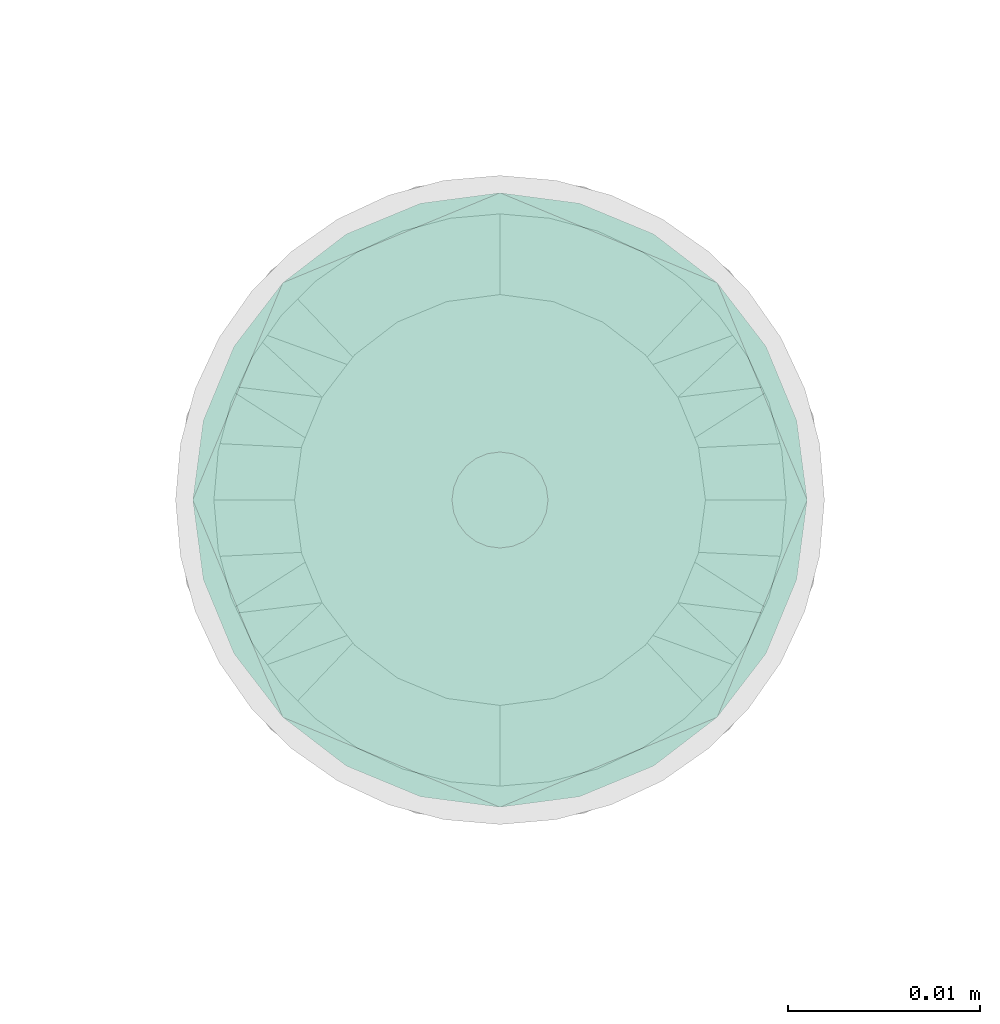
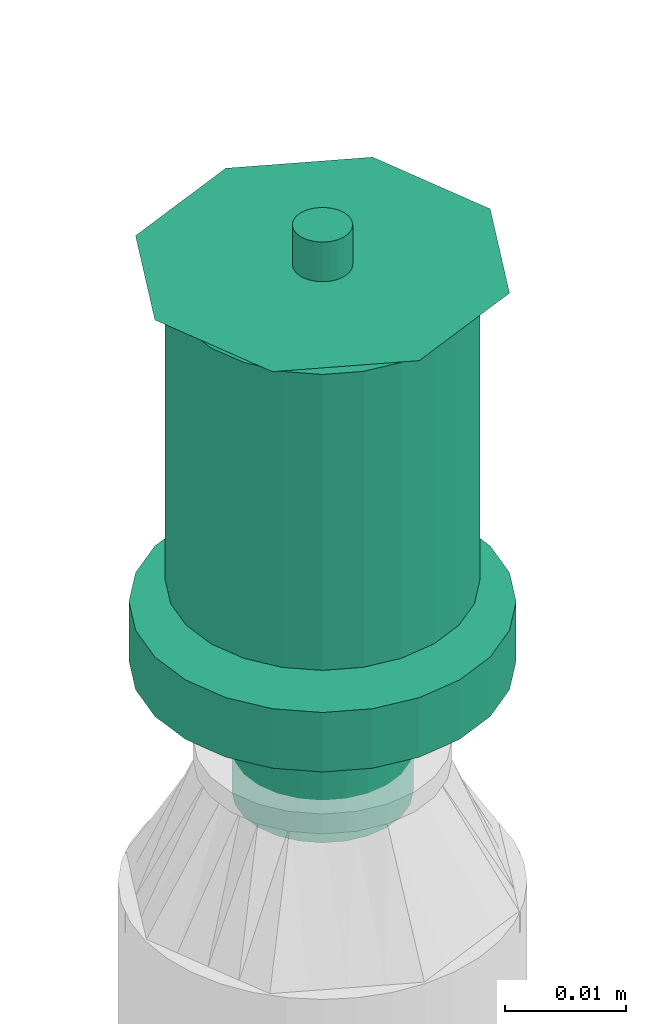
# One storey, part 56 of 63: 1 flow terminal.
"""IFC2X3 building model written with IfcOpenShell, lengths in millimetres."""

from ifc_helpers import new_model, entity, si_unit, converted_unit, derived_unit, direction, frame, origin_with_axes, place, context, subcontext, project, spatial, open_shell, surface_model, source, transform, mapped, type_object, element, save


model = new_model("IFC2X3")

# Units and contexts
model_context = context("Model", 3, precision=0.01, world=frame((0.0, 4.29681676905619e-09, 0.0)), true_north=direction((4.01073788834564e-13, 1.0)))
plan_context = context("Plan", 3, precision=0.01, world=frame((0.0, 4.29681676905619e-09, 0.0)), true_north=direction((4.01073788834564e-13, 1.0)))
body_context = subcontext(model_context, "Body", "Model", "MODEL_VIEW")
ifc_project = project(units=[converted_unit("PLANEANGLEUNIT", "DEGREE", entity("IfcPositiveLengthMeasure", 0.0174532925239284), si_unit("PLANEANGLEUNIT", "RADIAN"), dimensions=[0, 0, 0, 0, 0, 0, 0]), si_unit("AREAUNIT", "SQUARE_METRE"), si_unit("LENGTHUNIT", "METRE", prefix="MILLI"), si_unit("MASSUNIT", "GRAM", prefix="KILO"), si_unit("POWERUNIT", "WATT"), si_unit("PRESSUREUNIT", "PASCAL", prefix="KILO"), si_unit("FORCEUNIT", "NEWTON", prefix="KILO"), si_unit("ELECTRICVOLTAGEUNIT", "VOLT"), si_unit("ELECTRICCURRENTUNIT", "AMPERE"), si_unit("THERMODYNAMICTEMPERATUREUNIT", "DEGREE_CELSIUS"), si_unit("TIMEUNIT", "SECOND"), si_unit("VOLUMEUNIT", "CUBIC_METRE"), derived_unit("LINEARVELOCITYUNIT", [(si_unit("LENGTHUNIT", "METRE"), 1), (si_unit("TIMEUNIT", "SECOND"), -1)]), derived_unit("VOLUMETRICFLOWRATEUNIT", [(si_unit("VOLUMEUNIT", "CUBIC_METRE"), 1), (si_unit("TIMEUNIT", "SECOND"), -1)]), derived_unit("THERMALTRANSMITTANCEUNIT", [(si_unit("POWERUNIT", "WATT"), 1), (si_unit("THERMODYNAMICTEMPERATUREUNIT", "KELVIN"), -1), (si_unit("AREAUNIT", "SQUARE_METRE"), -1)]), derived_unit("SOUNDPRESSUREUNIT", [(si_unit("PRESSUREUNIT", "PASCAL"), 1)])], contexts=[model_context, plan_context])

# Site, building, storey
site_placement = place(None, frame((0.0, -4.29681676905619e-09, 0.0), z_axis=(0.0, 0.0, 1.0), x_axis=(1.0, 0.0, 0.0)))
site = spatial("IfcSite", under=ifc_project, at=site_placement, CompositionType="ELEMENT")
building_placement = place(site_placement, frame((0.0, 4.29681676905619e-09, 0.0), z_axis=(0.0, 0.0, 1.0), x_axis=(1.0, 0.0, 0.0)))
building = spatial("IfcBuilding", under=site, at=building_placement, Name="mc-building", CompositionType="ELEMENT")
storey_placement = place(building_placement, frame((0.0, 0.0, 207370.0), z_axis=(0.0, 0.0, 1.0), x_axis=(1.0, 0.0, 0.0)))
storey = spatial("IfcBuildingStorey", under=building, at=storey_placement, Name="Nivå E", CompositionType="ELEMENT", Elevation=207370.0)

# Flow terminal
fire_suppression_terminal_type = type_object("IfcFireSuppressionTerminalType", Name="68DGR-STD-STÅENDE", PredefinedType="NOTDEFINED")
shared_shape = source(origin_with_axes(), body_context, "Body", "SurfaceModel", [
    surface_model("IfcShellBasedSurfaceModel", [(3.36465, -12.55704, 51.0), (6.5, -11.25833, 51.0), (9.19239, -9.19239, 51.0), (12.55704, -3.36465, 51.0), (-11.25833, -6.5, 51.0), (11.25833, -6.5, 51.0), (-13.0, 0.0, 51.0), (0.0, -13.0, 51.0), (-6.5, -11.25833, 51.0), (-3.36465, -12.55704, 51.0), (-9.19239, -9.19239, 51.0), (-12.55704, -3.36465, 51.0), (13.0, 0.0, 51.0), (12.55704, 3.36465, 51.0), (11.25833, 6.5, 51.0), (9.19239, 9.19239, 51.0), (6.5, 11.25833, 51.0), (3.36465, 12.55704, 51.0), (0.0, 13.0, 51.0), (-3.36465, 12.55704, 51.0), (-12.55704, 3.36465, 51.0), (-9.19239, 9.19239, 51.0), (-11.25833, 6.5, 51.0), (-6.5, 11.25833, 51.0), (0.0, 13.0, 21.14766), (3.36465, 12.55704, 21.14766), (6.5, 11.25833, 21.14766), (-3.36465, 12.55704, 21.14766), (9.19239, 9.19239, 21.14766), (11.25833, 6.5, 21.14766), (12.55704, 3.36465, 21.14766), (-12.55704, 3.36465, 21.14766), (-11.25833, -6.5, 21.14766), (-9.19239, 9.19239, 21.14766), (-6.5, 11.25833, 21.14766), (-11.25833, 6.5, 21.14766), (-13.0, 0.0, 21.14766), (12.55704, -3.36465, 21.14766), (9.19239, -9.19239, 21.14766), (11.25833, -6.5, 21.14766), (6.5, -11.25833, 21.14766), (3.36465, -12.55704, 21.14766), (-6.5, -11.25833, 21.14766), (-9.19239, -9.19239, 21.14766), (-12.55704, -3.36465, 21.14766), (0.0, -13.0, 21.14766), (-3.36465, -12.55704, 21.14766), (13.0, 0.0, 21.14766), (7.24444, -1.94114, 0.1), (1.94114, -7.24444, 0.1), (3.75, -6.49519, 0.1), (5.3033, -5.3033, 0.1), (-5.3033, -5.3033, 0.1), (6.49519, -3.75, 0.1), (5.3033, 5.3033, 0.1), (0.0, -7.5, 0.1), (-3.75, -6.49519, 0.1), (-1.94114, -7.24444, 0.1), (-7.24444, -1.94114, 0.1), (-6.49519, -3.75, 0.1), (-7.24444, 1.94114, 0.1), (7.5, 0.0, 0.1), (6.49519, 3.75, 0.1), (-6.49519, 3.75, 0.1), (1.94114, 7.24444, 0.1), (0.0, 7.5, 0.1), (3.75, 6.49519, 0.1), (-7.5, 0.0, 0.1), (-5.3033, 5.3033, 0.1), (-1.94114, 7.24444, 0.1), (-3.75, 6.49519, 0.1), (7.24444, 1.94114, 0.1), (1.94114, 7.24444, -0.1), (-6.49519, 3.75, -0.1), (0.0, 7.5, -0.1), (5.3033, 5.3033, -0.1), (3.75, 6.49519, -0.1), (6.49519, 3.75, -0.1), (7.24444, 1.94114, -0.1), (-1.94114, 7.24444, -0.1), (-5.3033, 5.3033, -0.1), (-3.75, 6.49519, -0.1), (-7.24444, 1.94114, -0.1), (-7.24444, -1.94114, -0.1), (-7.5, 0.0, -0.1), (7.5, 0.0, -0.1), (7.24444, -1.94114, -0.1), (-5.3033, -5.3033, -0.1), (1.94114, -7.24444, -0.1), (6.49519, -3.75, -0.1), (5.3033, -5.3033, -0.1), (3.75, -6.49519, -0.1), (-6.49519, -3.75, -0.1), (-3.75, -6.49519, -0.1), (0.0, -7.5, -0.1), (-1.94114, -7.24444, -0.1), (0.0, -2.5, 51.0), (-2.5, 0.0, 51.0), (0.0, 2.5, 51.0), (2.5, 0.0, 51.0), (0.0, -16.0, 53.0), (11.31371, -11.31371, 53.0), (-11.31371, -11.31371, 53.0), (-16.0, 0.0, 53.0), (16.0, 0.0, 53.0), (11.31371, 11.31371, 53.0), (0.0, 16.0, 53.0), (-11.31371, 11.31371, 53.0), (1.25, -2.16506, 57.0), (0.0, -2.5, 57.0), (0.64705, -2.41481, 57.0), (2.41481, -0.64705, 57.0), (1.76777, -1.76777, 57.0), (-2.41481, -0.64705, 57.0), (-2.5, 0.0, 57.0), (2.16506, -1.25, 57.0), (-1.25, -2.16506, 57.0), (-0.64705, -2.41481, 57.0), (-1.76777, -1.76777, 57.0), (-2.16506, -1.25, 57.0), (2.5, 0.0, 57.0), (2.41481, 0.64705, 57.0), (2.16506, 1.25, 57.0), (1.76777, 1.76777, 57.0), (0.64705, 2.41481, 57.0), (1.25, 2.16506, 57.0), (-1.76777, 1.76777, 57.0), (0.0, 2.5, 57.0), (-2.16506, 1.25, 57.0), (-2.41481, 0.64705, 57.0), (-0.64705, 2.41481, 57.0), (-1.25, 2.16506, 57.0), (1.25, 2.16506, 51.0), (1.76777, 1.76777, 51.0), (1.15, 1.99186, 51.0), (0.59528, 2.22163, 51.0), (0.64705, 2.41481, 51.0), (0.0, 2.3, 51.0), (1.62635, 1.62635, 51.0), (2.41481, 0.64705, 51.0), (2.3, 0.0, 51.0), (2.22163, 0.59528, 51.0), (2.16506, 1.25, 51.0), (1.99186, 1.15, 51.0), (-0.59528, 2.22163, 51.0), (-0.64705, 2.41481, 51.0), (-1.15, 1.99186, 51.0), (-1.76777, 1.76777, 51.0), (-1.25, 2.16506, 51.0), (-1.62635, 1.62635, 51.0), (-1.99186, 1.15, 51.0), (-2.16506, 1.25, 51.0), (-2.22163, 0.59528, 51.0), (-2.41481, 0.64705, 51.0), (-2.3, 0.0, 51.0), (2.41481, -0.64705, 51.0), (2.22163, -0.59528, 51.0), (1.99186, -1.15, 51.0), (2.16506, -1.25, 51.0), (1.62635, -1.62635, 51.0), (1.76777, -1.76777, 51.0), (1.25, -2.16506, 51.0), (1.15, -1.99186, 51.0), (0.59528, -2.22163, 51.0), (0.64705, -2.41481, 51.0), (0.0, -2.3, 51.0), (-2.16506, -1.25, 51.0), (-1.99186, -1.15, 51.0), (-1.76777, -1.76777, 51.0), (-1.62635, -1.62635, 51.0), (-2.41481, -0.64705, 51.0), (-2.22163, -0.59528, 51.0), (-0.59528, -2.22163, 51.0), (-0.64705, -2.41481, 51.0), (-1.15, -1.99186, 51.0), (-1.25, -2.16506, 51.0), (1.62635, -1.62635, 56.8), (1.15, -1.99186, 56.8), (0.59528, -2.22163, 56.8), (0.0, -2.3, 56.8), (2.22163, 0.59528, 56.8), (1.99186, -1.15, 56.8), (2.22163, -0.59528, 56.8), (-0.59528, -2.22163, 56.8), (-1.15, -1.99186, 56.8), (-1.62635, -1.62635, 56.8), (-1.99186, -1.15, 56.8), (-2.22163, -0.59528, 56.8), (-1.99186, 1.15, 56.8), (2.3, 0.0, 56.8), (1.62635, 1.62635, 56.8), (1.99186, 1.15, 56.8), (1.15, 1.99186, 56.8), (0.0, 2.3, 56.8), (0.59528, 2.22163, 56.8), (-2.22163, 0.59528, 56.8), (-2.3, 0.0, 56.8), (-1.15, 1.99186, 56.8), (-0.59528, 2.22163, 56.8), (-1.62635, 1.62635, 56.8), (4.1411, -15.45481, 19.0), (8.0, -13.85641, 19.0), (11.31371, -11.31371, 19.0), (-8.0, -13.85641, 19.0), (15.45481, -4.1411, 19.0), (16.0, 0.0, 19.0), (13.85641, -8.0, 19.0), (0.0, -16.0, 19.0), (-4.1411, -15.45481, 19.0), (-13.85641, -8.0, 19.0), (-11.31371, -11.31371, 19.0), (-15.45481, -4.1411, 19.0), (15.45481, 4.1411, 19.0), (13.85641, 8.0, 19.0), (11.31371, 11.31371, 19.0), (-4.1411, 15.45481, 19.0), (8.0, 13.85641, 19.0), (4.1411, 15.45481, 19.0), (0.0, 16.0, 19.0), (-13.85641, 8.0, 19.0), (-15.45481, 4.1411, 19.0), (-16.0, 0.0, 19.0), (-11.31371, 11.31371, 19.0), (-8.0, 13.85641, 19.0), (0.0, 16.0, 13.0), (4.1411, 15.45481, 13.0), (8.0, 13.85641, 13.0), (-4.1411, 15.45481, 13.0), (11.31371, 11.31371, 13.0), (13.85641, 8.0, 13.0), (15.45481, 4.1411, 13.0), (-15.45481, -4.1411, 13.0), (-11.31371, 11.31371, 13.0), (-8.0, 13.85641, 13.0), (-13.85641, 8.0, 13.0), (-15.45481, 4.1411, 13.0), (-16.0, 0.0, 13.0), (4.1411, -15.45481, 13.0), (16.0, 0.0, 13.0), (15.45481, -4.1411, 13.0), (13.85641, -8.0, 13.0), (11.31371, -11.31371, 13.0), (8.0, -13.85641, 13.0), (-8.0, -13.85641, 13.0), (-13.85641, -8.0, 13.0), (-11.31371, -11.31371, 13.0), (0.0, -16.0, 13.0), (-4.1411, -15.45481, 13.0), (7.24444, -1.94114, 13.0), (1.94114, -7.24444, 13.0), (3.75, -6.49519, 13.0), (5.3033, -5.3033, 13.0), (-5.3033, -5.3033, 13.0), (6.49519, -3.75, 13.0), (5.3033, 5.3033, 13.0), (0.0, -7.5, 13.0), (-3.75, -6.49519, 13.0), (-1.94114, -7.24444, 13.0), (-7.24444, -1.94114, 13.0), (-6.49519, -3.75, 13.0), (-7.24444, 1.94114, 13.0), (7.5, 0.0, 13.0), (6.49519, 3.75, 13.0), (-6.49519, 3.75, 13.0), (1.94114, 7.24444, 13.0), (0.0, 7.5, 13.0), (3.75, 6.49519, 13.0), (-7.5, 0.0, 13.0), (-5.3033, 5.3033, 13.0), (-1.94114, 7.24444, 13.0), (-3.75, 6.49519, 13.0), (7.24444, 1.94114, 13.0), (3.75, 6.49519, 0.0), (5.3033, 5.3033, 0.0), (3.65, 6.32199, 0.0), (1.88938, 7.05126, 0.0), (0.0, 7.3, 0.0), (1.94114, 7.24444, 0.0), (0.0, 7.5, 0.0), (5.16188, 5.16188, 0.0), (7.24444, 1.94114, 0.0), (7.3, 0.0, 0.0), (7.05126, 1.88938, 0.0), (7.5, 0.0, 0.0), (6.49519, 3.75, 0.0), (6.32199, 3.65, 0.0), (-1.88938, 7.05126, 0.0), (-1.94114, 7.24444, 0.0), (-3.65, 6.32199, 0.0), (-5.3033, 5.3033, 0.0), (-3.75, 6.49519, 0.0), (-5.16188, 5.16188, 0.0), (-6.32199, 3.65, 0.0), (-6.49519, 3.75, 0.0), (-7.05126, 1.88938, 0.0), (-7.24444, 1.94114, 0.0), (-7.3, 0.0, 0.0), (-7.5, 0.0, 0.0), (7.24444, -1.94114, 0.0), (7.05126, -1.88938, 0.0), (6.32199, -3.65, 0.0), (6.49519, -3.75, 0.0), (5.16188, -5.16188, 0.0), (5.3033, -5.3033, 0.0), (3.75, -6.49519, 0.0), (3.65, -6.32199, 0.0), (1.88938, -7.05126, 0.0), (1.94114, -7.24444, 0.0), (0.0, -7.3, 0.0), (0.0, -7.5, 0.0), (-6.49519, -3.75, 0.0), (-6.32199, -3.65, 0.0), (-5.3033, -5.3033, 0.0), (-5.16188, -5.16188, 0.0), (-7.24444, -1.94114, 0.0), (-7.05126, -1.88938, 0.0), (-1.88938, -7.05126, 0.0), (-1.94114, -7.24444, 0.0), (-3.65, -6.32199, 0.0), (-3.75, -6.49519, 0.0), (1.88938, -7.05126, 12.8), (0.0, -7.3, 12.8), (3.65, -6.32199, 12.8), (5.16188, -5.16188, 12.8), (6.32199, -3.65, 12.8), (7.05126, 1.88938, 12.8), (7.05126, -1.88938, 12.8), (-5.16188, -5.16188, 12.8), (-1.88938, -7.05126, 12.8), (-3.65, -6.32199, 12.8), (-6.32199, -3.65, 12.8), (-7.05126, -1.88938, 12.8), (0.0, 7.3, 12.8), (7.3, 0.0, 12.8), (6.32199, 3.65, 12.8), (5.16188, 5.16188, 12.8), (3.65, 6.32199, 12.8), (1.88938, 7.05126, 12.8), (-6.32199, 3.65, 12.8), (-7.05126, 1.88938, 12.8), (-7.3, 0.0, 12.8), (-3.65, 6.32199, 12.8), (-1.88938, 7.05126, 12.8), (-5.16188, 5.16188, 12.8)], [open_shell([[[0, 1, 2]], [[0, 2, 3]], [[0, 3, 4]], [[3, 2, 5]], [[6, 4, 3]], [[7, 8, 9]], [[7, 0, 8]], [[8, 4, 10]], [[0, 4, 8]], [[4, 6, 11]], [[6, 3, 12]], [[13, 14, 15]], [[6, 13, 15]], [[16, 17, 18]], [[15, 16, 19]], [[18, 19, 16]], [[20, 21, 22]], [[20, 6, 15]], [[21, 19, 23]], [[19, 21, 20]], [[15, 19, 20]], [[13, 6, 12]], [[24, 25, 26]], [[27, 24, 26]], [[28, 29, 30]], [[26, 28, 31]], [[28, 32, 31]], [[27, 33, 34]], [[33, 27, 31]], [[33, 31, 35]], [[27, 26, 31]], [[31, 32, 36]], [[32, 28, 30]], [[32, 30, 37]], [[38, 37, 39]], [[38, 40, 41]], [[38, 41, 37]], [[32, 37, 41]], [[32, 42, 43]], [[44, 36, 32]], [[42, 45, 46]], [[42, 32, 41]], [[45, 42, 41]], [[30, 47, 37]], [[4, 32, 43]], [[8, 42, 46]], [[43, 42, 10]], [[9, 46, 45]], [[36, 11, 6]], [[11, 36, 44]], [[11, 44, 4]], [[44, 32, 4]], [[43, 10, 4]], [[8, 10, 42]], [[46, 9, 8]], [[45, 7, 9]], [[0, 41, 40]], [[38, 1, 40]], [[5, 39, 37]], [[38, 39, 2]], [[3, 37, 47]], [[41, 0, 7]], [[40, 1, 0]], [[38, 2, 1]], [[39, 5, 2]], [[3, 5, 37]], [[47, 12, 3]], [[41, 7, 45]], [[30, 13, 47]], [[29, 14, 30]], [[25, 24, 17]], [[15, 29, 28]], [[30, 14, 13]], [[13, 12, 47]], [[16, 26, 17]], [[16, 15, 28]], [[26, 25, 17]], [[15, 14, 29]], [[28, 26, 16]], [[24, 18, 17]], [[19, 27, 34]], [[33, 23, 34]], [[22, 35, 31]], [[33, 35, 21]], [[20, 31, 36]], [[27, 19, 18]], [[34, 23, 19]], [[33, 21, 23]], [[35, 22, 21]], [[20, 22, 31]], [[36, 6, 20]], [[27, 18, 24]], [[48, 49, 50]], [[48, 50, 51]], [[49, 48, 52]], [[48, 51, 53]], [[54, 52, 48]], [[55, 56, 57]], [[56, 55, 52]], [[52, 58, 59]], [[52, 55, 49]], [[52, 60, 58]], [[54, 48, 61]], [[62, 54, 61]], [[54, 63, 52]], [[64, 65, 54]], [[64, 54, 66]], [[63, 54, 65]], [[63, 60, 52]], [[67, 58, 60]], [[68, 69, 70]], [[69, 68, 63]], [[69, 63, 65]], [[71, 62, 61]], [[72, 73, 74]], [[75, 72, 76]], [[75, 77, 78]], [[72, 75, 73]], [[78, 73, 75]], [[79, 80, 81]], [[80, 79, 73]], [[74, 73, 79]], [[78, 82, 73]], [[82, 83, 84]], [[82, 78, 85]], [[86, 87, 85]], [[88, 86, 89]], [[90, 91, 88]], [[90, 88, 89]], [[87, 86, 88]], [[83, 87, 92]], [[83, 85, 87]], [[93, 94, 95]], [[94, 93, 87]], [[88, 94, 87]], [[85, 83, 82]], [[83, 58, 84]], [[92, 59, 83]], [[56, 87, 93]], [[92, 87, 52]], [[57, 93, 95]], [[83, 59, 58]], [[58, 67, 84]], [[57, 56, 93]], [[52, 87, 56]], [[52, 59, 92]], [[55, 57, 95]], [[95, 94, 55]], [[88, 49, 94]], [[91, 50, 88]], [[53, 90, 89]], [[91, 90, 51]], [[48, 89, 86]], [[91, 51, 50]], [[50, 49, 88]], [[61, 48, 86]], [[53, 89, 48]], [[53, 51, 90]], [[85, 61, 86]], [[94, 49, 55]], [[78, 71, 85]], [[77, 62, 78]], [[66, 75, 76]], [[77, 75, 54]], [[64, 76, 72]], [[78, 62, 71]], [[71, 61, 85]], [[64, 66, 76]], [[54, 75, 66]], [[54, 62, 77]], [[65, 64, 72]], [[72, 74, 65]], [[79, 69, 74]], [[81, 70, 79]], [[63, 80, 73]], [[81, 80, 68]], [[60, 73, 82]], [[81, 68, 70]], [[70, 69, 79]], [[67, 60, 82]], [[63, 73, 60]], [[63, 68, 80]], [[84, 67, 82]], [[74, 69, 65]], [[96, 97, 98]], [[98, 99, 96]], [[100, 101, 102]], [[103, 102, 101]], [[101, 104, 103]], [[104, 105, 106]], [[107, 103, 106]], [[106, 103, 104]], [[99, 98, 105]], [[105, 104, 99]], [[98, 106, 105]], [[98, 107, 106]], [[107, 98, 97]], [[103, 107, 97]], [[97, 96, 102]], [[102, 103, 97]], [[96, 100, 102]], [[96, 101, 100]], [[101, 96, 99]], [[104, 101, 99]], [[108, 109, 110]], [[111, 108, 112]], [[113, 108, 114]], [[111, 112, 115]], [[108, 111, 114]], [[109, 116, 117]], [[116, 109, 118]], [[118, 113, 119]], [[118, 109, 108]], [[108, 113, 118]], [[111, 120, 114]], [[121, 122, 123]], [[114, 121, 123]], [[114, 123, 124]], [[124, 123, 125]], [[126, 124, 127]], [[124, 128, 129]], [[129, 114, 124]], [[126, 130, 131]], [[128, 124, 126]], [[130, 126, 127]], [[121, 114, 120]], [[132, 133, 134]], [[132, 134, 135]], [[136, 135, 137]], [[135, 136, 132]], [[136, 137, 98]], [[134, 133, 138]], [[139, 140, 141]], [[140, 139, 99]], [[139, 141, 142]], [[138, 142, 143]], [[142, 138, 133]], [[143, 142, 141]], [[98, 144, 145]], [[98, 137, 144]], [[145, 144, 146]], [[147, 148, 149]], [[146, 148, 145]], [[149, 148, 146]], [[150, 151, 147]], [[151, 150, 152]], [[150, 147, 149]], [[153, 152, 154]], [[152, 153, 151]], [[153, 154, 97]], [[99, 155, 156]], [[156, 155, 157]], [[157, 158, 159]], [[158, 157, 155]], [[159, 158, 160]], [[160, 161, 162]], [[162, 161, 163]], [[163, 164, 165]], [[164, 163, 161]], [[165, 164, 96]], [[162, 159, 160]], [[166, 167, 168]], [[168, 167, 169]], [[167, 166, 170]], [[97, 171, 170]], [[170, 171, 167]], [[97, 154, 171]], [[172, 96, 173]], [[172, 173, 174]], [[169, 175, 168]], [[175, 169, 174]], [[175, 174, 173]], [[165, 96, 172]], [[156, 140, 99]], [[170, 113, 97]], [[166, 119, 170]], [[116, 168, 175]], [[166, 168, 118]], [[117, 175, 173]], [[170, 119, 113]], [[113, 114, 97]], [[117, 116, 175]], [[118, 168, 116]], [[118, 119, 166]], [[109, 117, 173]], [[173, 96, 109]], [[164, 110, 96]], [[161, 108, 164]], [[115, 160, 158]], [[161, 160, 112]], [[111, 158, 155]], [[161, 112, 108]], [[108, 110, 164]], [[120, 111, 155]], [[115, 158, 111]], [[115, 112, 160]], [[99, 120, 155]], [[96, 110, 109]], [[139, 121, 99]], [[142, 122, 139]], [[125, 133, 132]], [[142, 133, 123]], [[124, 132, 136]], [[139, 122, 121]], [[121, 120, 99]], [[124, 125, 132]], [[123, 133, 125]], [[123, 122, 142]], [[127, 124, 136]], [[136, 98, 127]], [[145, 130, 98]], [[148, 131, 145]], [[128, 147, 151]], [[148, 147, 126]], [[129, 151, 153]], [[148, 126, 131]], [[131, 130, 145]], [[114, 129, 153]], [[128, 151, 129]], [[128, 126, 147]], [[97, 114, 153]], [[98, 130, 127]], [[176, 177, 178]], [[176, 178, 179]], [[180, 176, 179]], [[181, 176, 182]], [[180, 182, 176]], [[183, 184, 179]], [[185, 179, 184]], [[186, 187, 185]], [[185, 187, 188]], [[179, 185, 188]], [[189, 182, 180]], [[190, 191, 180]], [[192, 190, 180]], [[193, 194, 192]], [[180, 193, 192]], [[188, 193, 180]], [[195, 188, 196]], [[196, 188, 187]], [[197, 198, 199]], [[188, 199, 198]], [[188, 198, 193]], [[180, 179, 188]], [[154, 187, 171]], [[171, 186, 167]], [[174, 169, 184]], [[185, 169, 167]], [[172, 174, 183]], [[187, 186, 171]], [[154, 196, 187]], [[174, 184, 183]], [[184, 169, 185]], [[167, 186, 185]], [[172, 183, 179]], [[179, 165, 172]], [[165, 178, 163]], [[163, 177, 162]], [[157, 159, 181]], [[176, 159, 162]], [[156, 157, 182]], [[177, 176, 162]], [[163, 178, 177]], [[156, 182, 189]], [[182, 157, 181]], [[159, 176, 181]], [[156, 189, 140]], [[179, 178, 165]], [[140, 180, 141]], [[141, 191, 143]], [[134, 138, 192]], [[190, 138, 143]], [[135, 134, 194]], [[180, 191, 141]], [[140, 189, 180]], [[134, 192, 194]], [[192, 138, 190]], [[143, 191, 190]], [[135, 194, 193]], [[193, 137, 135]], [[137, 198, 144]], [[144, 197, 146]], [[150, 149, 188]], [[199, 149, 146]], [[152, 150, 195]], [[197, 199, 146]], [[144, 198, 197]], [[152, 195, 196]], [[195, 150, 188]], [[149, 199, 188]], [[152, 196, 154]], [[193, 198, 137]], [[200, 201, 202]], [[203, 200, 202]], [[204, 205, 202]], [[204, 202, 206]], [[203, 202, 205]], [[207, 203, 208]], [[207, 200, 203]], [[203, 209, 210]], [[209, 203, 211]], [[205, 211, 203]], [[205, 212, 211]], [[212, 213, 214]], [[215, 212, 214]], [[216, 217, 218]], [[214, 216, 215]], [[218, 215, 216]], [[211, 219, 220]], [[221, 211, 220]], [[222, 215, 223]], [[215, 222, 219]], [[219, 211, 215]], [[211, 212, 215]], [[224, 225, 226]], [[227, 224, 226]], [[228, 229, 230]], [[227, 226, 228]], [[227, 228, 231]], [[227, 232, 233]], [[232, 227, 234]], [[234, 231, 235]], [[231, 234, 227]], [[235, 231, 236]], [[228, 230, 231]], [[237, 238, 239]], [[237, 239, 240]], [[241, 242, 237]], [[241, 237, 240]], [[238, 237, 243]], [[244, 243, 245]], [[243, 244, 231]], [[243, 246, 247]], [[243, 231, 238]], [[237, 246, 243]], [[238, 231, 230]], [[231, 211, 236]], [[244, 209, 231]], [[203, 245, 243]], [[244, 245, 210]], [[208, 243, 247]], [[231, 209, 211]], [[211, 221, 236]], [[208, 203, 243]], [[210, 245, 203]], [[210, 209, 244]], [[207, 208, 247]], [[247, 246, 207]], [[237, 200, 246]], [[242, 201, 237]], [[206, 241, 240]], [[242, 241, 202]], [[204, 240, 239]], [[242, 202, 201]], [[201, 200, 237]], [[205, 204, 239]], [[206, 240, 204]], [[206, 202, 241]], [[238, 205, 239]], [[246, 200, 207]], [[230, 212, 238]], [[229, 213, 230]], [[216, 228, 226]], [[229, 228, 214]], [[217, 226, 225]], [[230, 213, 212]], [[212, 205, 238]], [[217, 216, 226]], [[214, 228, 216]], [[214, 213, 229]], [[218, 217, 225]], [[225, 224, 218]], [[227, 215, 224]], [[233, 223, 227]], [[219, 232, 234]], [[233, 232, 222]], [[220, 234, 235]], [[233, 222, 223]], [[223, 215, 227]], [[221, 220, 235]], [[219, 234, 220]], [[219, 222, 232]], [[236, 221, 235]], [[224, 215, 218]], [[248, 249, 250]], [[248, 250, 251]], [[249, 248, 252]], [[248, 251, 253]], [[254, 252, 248]], [[255, 256, 257]], [[256, 255, 252]], [[252, 258, 259]], [[252, 255, 249]], [[252, 260, 258]], [[254, 248, 261]], [[262, 254, 261]], [[254, 263, 252]], [[264, 265, 254]], [[264, 254, 266]], [[263, 254, 265]], [[263, 260, 252]], [[267, 258, 260]], [[268, 269, 270]], [[269, 268, 263]], [[269, 263, 265]], [[271, 262, 261]], [[272, 273, 274]], [[272, 274, 275]], [[276, 277, 275]], [[277, 276, 278]], [[275, 277, 272]], [[274, 273, 279]], [[280, 281, 282]], [[281, 280, 283]], [[280, 282, 284]], [[279, 284, 285]], [[284, 279, 273]], [[285, 284, 282]], [[278, 286, 287]], [[287, 286, 288]], [[289, 290, 291]], [[288, 290, 287]], [[288, 291, 290]], [[278, 276, 286]], [[292, 293, 289]], [[293, 292, 294]], [[292, 289, 291]], [[295, 294, 296]], [[294, 295, 293]], [[295, 296, 297]], [[283, 298, 299]], [[299, 298, 300]], [[300, 301, 302]], [[301, 300, 298]], [[302, 301, 303]], [[303, 304, 305]], [[305, 304, 306]], [[306, 307, 308]], [[307, 306, 304]], [[308, 307, 309]], [[305, 302, 303]], [[310, 311, 312]], [[312, 311, 313]], [[311, 310, 314]], [[297, 315, 314]], [[314, 315, 311]], [[297, 296, 315]], [[316, 309, 317]], [[316, 317, 318]], [[313, 319, 312]], [[313, 318, 319]], [[319, 318, 317]], [[308, 309, 316]], [[299, 281, 283]], [[314, 258, 297]], [[310, 259, 314]], [[256, 312, 319]], [[310, 312, 252]], [[257, 319, 317]], [[314, 259, 258]], [[258, 267, 297]], [[257, 256, 319]], [[252, 312, 256]], [[252, 259, 310]], [[255, 257, 317]], [[317, 309, 255]], [[307, 249, 309]], [[304, 250, 307]], [[253, 303, 301]], [[304, 303, 251]], [[248, 301, 298]], [[304, 251, 250]], [[250, 249, 307]], [[261, 248, 298]], [[253, 301, 248]], [[253, 251, 303]], [[283, 261, 298]], [[309, 249, 255]], [[280, 271, 283]], [[284, 262, 280]], [[266, 273, 272]], [[284, 273, 254]], [[264, 272, 277]], [[280, 262, 271]], [[271, 261, 283]], [[264, 266, 272]], [[254, 273, 266]], [[254, 262, 284]], [[265, 264, 277]], [[277, 278, 265]], [[287, 269, 278]], [[290, 270, 287]], [[263, 289, 293]], [[290, 289, 268]], [[260, 293, 295]], [[290, 268, 270]], [[270, 269, 287]], [[267, 260, 295]], [[263, 293, 260]], [[263, 268, 289]], [[297, 267, 295]], [[278, 269, 265]], [[320, 321, 322]], [[323, 322, 324]], [[325, 326, 322]], [[324, 322, 326]], [[322, 327, 325]], [[328, 329, 321]], [[327, 321, 329]], [[330, 331, 327]], [[322, 321, 327]], [[331, 332, 327]], [[326, 325, 333]], [[334, 325, 332]], [[335, 334, 336]], [[332, 337, 336]], [[334, 332, 336]], [[331, 338, 332]], [[339, 338, 340]], [[340, 338, 331]], [[341, 342, 343]], [[332, 338, 343]], [[332, 343, 342]], [[332, 325, 327]], [[296, 331, 315]], [[315, 330, 311]], [[318, 313, 329]], [[327, 313, 311]], [[316, 318, 328]], [[331, 330, 315]], [[296, 340, 331]], [[318, 329, 328]], [[329, 313, 327]], [[311, 330, 327]], [[316, 328, 321]], [[321, 308, 316]], [[308, 320, 306]], [[306, 322, 305]], [[300, 302, 324]], [[323, 302, 305]], [[299, 300, 326]], [[322, 323, 305]], [[306, 320, 322]], [[299, 326, 333]], [[326, 300, 324]], [[302, 323, 324]], [[299, 333, 281]], [[321, 320, 308]], [[281, 325, 282]], [[282, 334, 285]], [[274, 279, 336]], [[335, 279, 285]], [[275, 274, 337]], [[325, 334, 282]], [[281, 333, 325]], [[274, 336, 337]], [[336, 279, 335]], [[285, 334, 335]], [[275, 337, 332]], [[332, 276, 275]], [[276, 342, 286]], [[286, 341, 288]], [[292, 291, 338]], [[343, 291, 288]], [[294, 292, 339]], [[341, 343, 288]], [[286, 342, 341]], [[294, 339, 340]], [[339, 292, 338]], [[291, 343, 338]], [[294, 340, 296]], [[332, 342, 276]]])]),
])
flow_terminal_placement = place(storey_placement, frame((728641.29045, 443211.22347, 3027.71994000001), z_axis=(0.0, 0.0, 1.0), x_axis=(1.0, 0.0, 0.0)))
element("IfcFlowTerminal", 1, at=flow_terminal_placement, inside=storey, type_object=fire_suppression_terminal_type, Name="68DGR-STD-STÅENDE", context=body_context, shape_type="MappedRepresentation", body=[
    mapped(shared_shape, transform((0.0, 0.0, 0.0), scale=1.0)),
])

save(model, "model.ifc")
